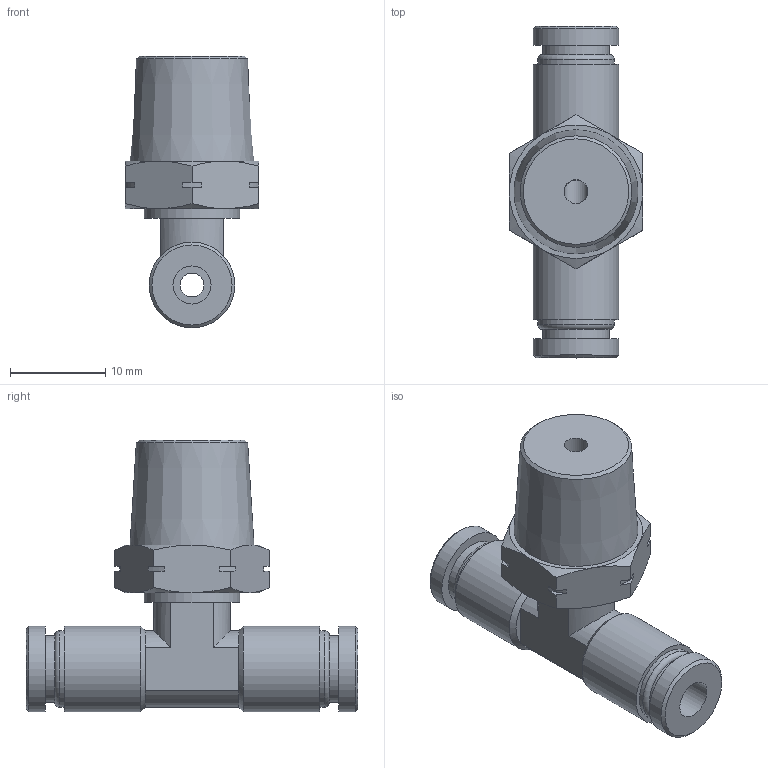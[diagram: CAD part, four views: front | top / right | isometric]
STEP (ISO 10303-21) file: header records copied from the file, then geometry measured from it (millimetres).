
FILE_DESCRIPTION(/* description */ (''),/* implementation_level */ '2;1');
FILE_NAME(/* name */ 'LXH31 0004 N2.stp',/* time_stamp */ '2025-09-15T13:08:21+02:00',/* author */ ('freju'),/* organization */ (''),/* preprocessor_version */ 'ST-DEVELOPER v20.1',/* originating_system */ 'Autodesk Inventor 2026',/* authorisation */ '');
FILE_SCHEMA (('AUTOMOTIVE_DESIGN { 1 0 10303 214 3 1 1 }'));
Length unit declared in the file: millimetre
Products named in the file (1): LXH31 0004 N2
Bounding box: 14 x 34.8 x 28.5 mm (x, y, z)
Volume: 3846.8 mm3; surface area: 2718.3 mm2
Topology: 1 solids, 1 shells, 80 faces, 187 edges, 117 vertices
Faces by surface type: plane 36, cylinder 24, cone 18, torus 2
Full cylindrical faces by diameter (mm): 2.5 x2, 4 x2, 7 x2, 8 x2, 9 x4, 10 x1
Entity records: 2313 total; most frequent: CARTESIAN_POINT 433, DIRECTION 404, ORIENTED_EDGE 374, EDGE_CURVE 187, AXIS2_PLACEMENT_3D 160, VERTEX_POINT 117, EDGE_LOOP 92, LINE 84
